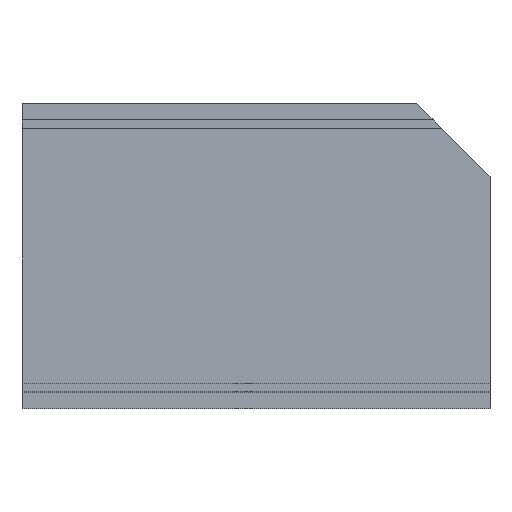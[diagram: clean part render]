
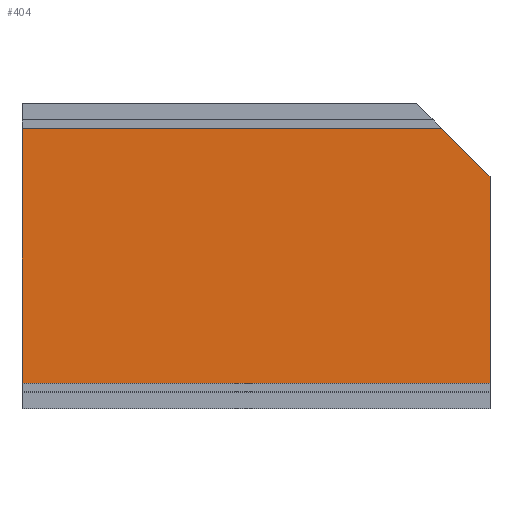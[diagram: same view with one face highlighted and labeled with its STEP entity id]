
A CAD part, top view. The second image highlights one B-rep face of the part: STEP entity #404.
In plain terms, the highlighted planar face has unit normal (0, 0, 1).
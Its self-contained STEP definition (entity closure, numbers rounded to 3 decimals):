
#65=ORIENTED_EDGE('',*,*,#133,.F.);
#66=ORIENTED_EDGE('',*,*,#134,.T.);
#67=ORIENTED_EDGE('',*,*,#127,.F.);
#68=ORIENTED_EDGE('',*,*,#135,.F.);
#69=ORIENTED_EDGE('',*,*,#132,.F.);
#127=EDGE_CURVE('',#158,#159,#192,.T.);
#132=EDGE_CURVE('',#161,#160,#197,.T.);
#133=EDGE_CURVE('',#162,#161,#198,.T.);
#134=EDGE_CURVE('',#162,#159,#199,.T.);
#135=EDGE_CURVE('',#160,#158,#200,.T.);
#158=VERTEX_POINT('',#561);
#159=VERTEX_POINT('',#562);
#160=VERTEX_POINT('',#567);
#161=VERTEX_POINT('',#569);
#162=VERTEX_POINT('',#573);
#192=LINE('',#560,#231);
#197=LINE('',#570,#236);
#198=LINE('',#572,#237);
#199=LINE('',#574,#238);
#200=LINE('',#575,#239);
#231=VECTOR('',#479,1000.);
#236=VECTOR('',#486,1000.);
#237=VECTOR('',#489,1000.);
#238=VECTOR('',#490,1000.);
#239=VECTOR('',#491,1000.);
#252=EDGE_LOOP('',(#65,#66,#67,#68,#69));
#267=FACE_BOUND('',#252,.T.);
#282=PLANE('',#424);
#404=ADVANCED_FACE('',(#267),#282,.F.);
#424=AXIS2_PLACEMENT_3D('',#571,#487,#488);
#479=DIRECTION('',(1.,0.,0.));
#486=DIRECTION('',(-1.,0.,0.));
#487=DIRECTION('',(0.,0.,-1.));
#488=DIRECTION('',(-1.,0.,0.));
#489=DIRECTION('',(0.,-1.,0.));
#490=DIRECTION('',(-0.707,0.708,0.));
#491=DIRECTION('',(0.,1.,0.));
#560=CARTESIAN_POINT('',(-56.5,29.5,1.7));
#561=CARTESIAN_POINT('',(-55.864,29.5,1.7));
#562=CARTESIAN_POINT('',(41.313,29.5,1.7));
#567=CARTESIAN_POINT('',(-55.864,-29.5,1.7));
#569=CARTESIAN_POINT('',(52.5,-29.5,1.7));
#570=CARTESIAN_POINT('',(52.5,-29.5,1.7));
#571=CARTESIAN_POINT('',(0.,0.,1.7));
#572=CARTESIAN_POINT('',(52.5,29.5,1.7));
#573=CARTESIAN_POINT('',(52.5,18.294,1.7));
#574=CARTESIAN_POINT('',(35.442,35.382,1.7));
#575=CARTESIAN_POINT('',(-55.864,0.,1.7));
